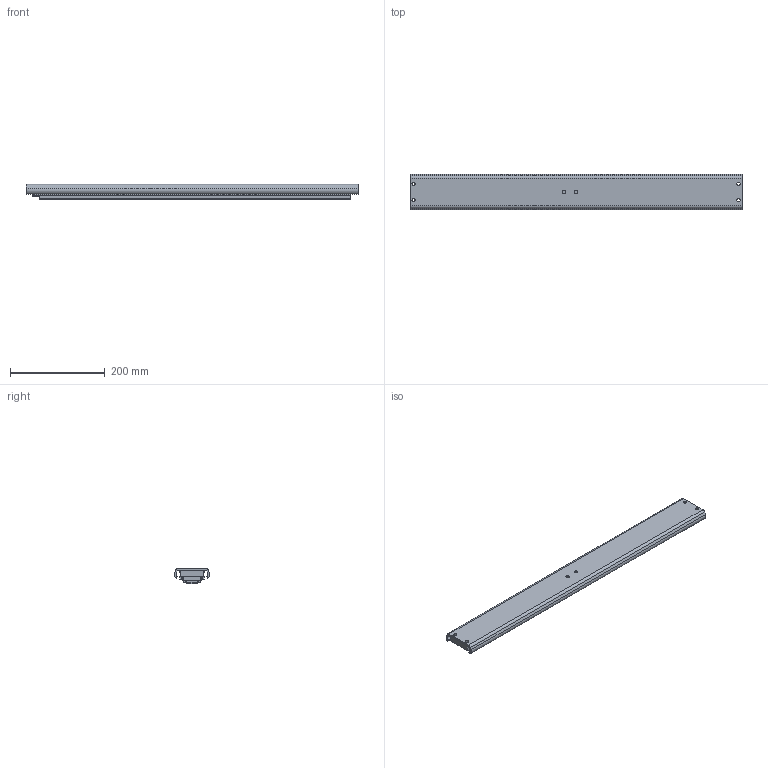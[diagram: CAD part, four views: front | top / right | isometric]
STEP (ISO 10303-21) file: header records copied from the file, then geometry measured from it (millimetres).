
FILE_DESCRIPTION(/* description */ ('TR7532 700 / 1050 (32)'),/* implementation_level */ '2;1');
FILE_NAME(/* name */ 'C:\Workspace\Documents\Projects\Custom Eng\slides\138\13875-Sxx\E000041184.stp',/* time_stamp */ '2016-07-22T13:20:55+02:00',/* author */ ('stagenbd'),/* organization */ (''),/* preprocessor_version */ 'ST-DEVELOPER v15.6',/* originating_system */ 'Autodesk Inventor 2015',/* authorisation */ '');
FILE_SCHEMA (('AUTOMOTIVE_DESIGN { 1 0 10303 214 3 1 1 }'));
Length unit declared in the file: millimetre
Products named in the file (1): E000041184
Bounding box: 700 x 74.93 x 32 mm (x, y, z)
Volume: 811136.5 mm3; surface area: 386717.4 mm2
Topology: 7 solids, 7 shells, 204 faces, 532 edges, 326 vertices
Faces by surface type: cylinder 114, plane 68, sphere 16, cone 6
Full cylindrical faces by diameter (mm): 5 x6, 6.4 x2, 6.6 x2, 7 x4
Entity records: 6150 total; most frequent: DIRECTION 1140, CARTESIAN_POINT 1027, ORIENTED_EDGE 992, EDGE_CURVE 496, AXIS2_PLACEMENT_3D 439, VERTEX_POINT 326, LINE 262, VECTOR 262
